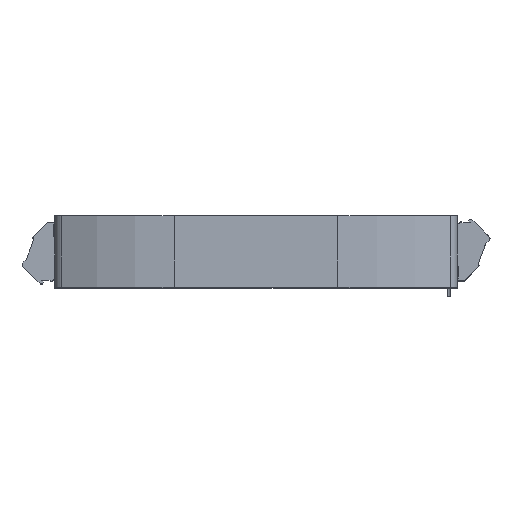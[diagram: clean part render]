
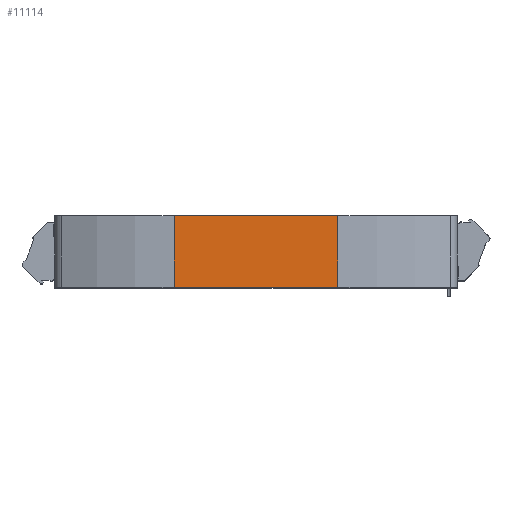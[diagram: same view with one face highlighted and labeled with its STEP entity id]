
A CAD part, top view. The second image highlights one B-rep face of the part: STEP entity #11114.
In plain terms, the highlighted planar face has unit normal (0, 0, 1).
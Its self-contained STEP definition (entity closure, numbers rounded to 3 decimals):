
#1375=FACE_OUTER_BOUND('',#2002,.T.);
#2002=EDGE_LOOP('',(#9291,#9292,#9293,#9294));
#2966=LINE('',#17616,#4157);
#3015=LINE('',#17726,#4206);
#3017=LINE('',#17732,#4208);
#3018=LINE('',#17733,#4209);
#4157=VECTOR('',#14431,10.);
#4206=VECTOR('',#14522,10.);
#4208=VECTOR('',#14528,10.);
#4209=VECTOR('',#14529,10.);
#5282=VERTEX_POINT('',#17613);
#5283=VERTEX_POINT('',#17615);
#5323=VERTEX_POINT('',#17725);
#5325=VERTEX_POINT('',#17731);
#6619=EDGE_CURVE('',#5283,#5282,#2966,.T.);
#6677=EDGE_CURVE('',#5283,#5323,#3015,.T.);
#6680=EDGE_CURVE('',#5282,#5325,#3017,.T.);
#6681=EDGE_CURVE('',#5325,#5323,#3018,.T.);
#9291=ORIENTED_EDGE('',*,*,#6619,.T.);
#9292=ORIENTED_EDGE('',*,*,#6680,.T.);
#9293=ORIENTED_EDGE('',*,*,#6681,.T.);
#9294=ORIENTED_EDGE('',*,*,#6677,.F.);
#10574=PLANE('',#12024);
#11114=ADVANCED_FACE('',(#1375),#10574,.T.);
#12024=AXIS2_PLACEMENT_3D('',#17730,#14526,#14527);
#14431=DIRECTION('',(-1.,0.,0.));
#14522=DIRECTION('',(0.,-1.,0.));
#14526=DIRECTION('center_axis',(0.,0.,1.));
#14527=DIRECTION('ref_axis',(-1.,0.,0.));
#14528=DIRECTION('',(0.,-1.,0.));
#14529=DIRECTION('',(1.,0.,0.));
#17613=CARTESIAN_POINT('',(-20.5,8.5,120.));
#17615=CARTESIAN_POINT('',(20.5,8.5,120.));
#17616=CARTESIAN_POINT('',(25.25,8.5,120.));
#17725=CARTESIAN_POINT('',(20.5,-9.5,120.));
#17726=CARTESIAN_POINT('',(20.5,-13.,120.));
#17730=CARTESIAN_POINT('Origin',(50.5,10.,120.));
#17731=CARTESIAN_POINT('',(-20.5,-9.5,120.));
#17732=CARTESIAN_POINT('',(-20.5,-13.,120.));
#17733=CARTESIAN_POINT('',(25.25,-9.5,120.));
